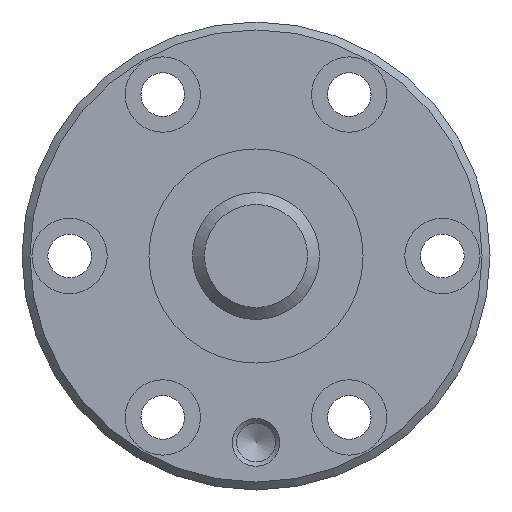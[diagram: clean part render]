
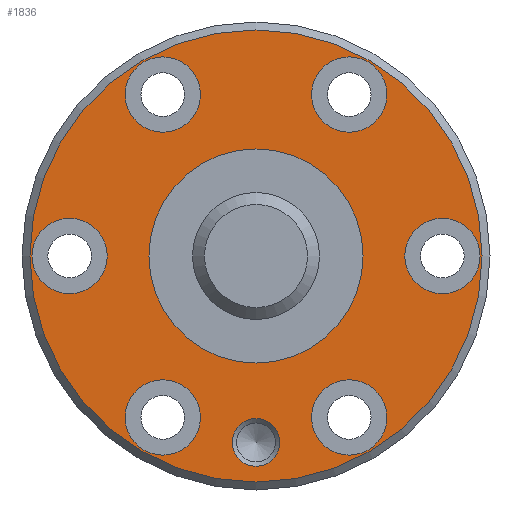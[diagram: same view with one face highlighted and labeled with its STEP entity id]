
A CAD part, left-side view. The second image highlights one B-rep face of the part: STEP entity #1836.
In plain terms, the highlighted planar face has unit normal (-1, 0, 0).
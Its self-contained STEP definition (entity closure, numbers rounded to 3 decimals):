
#420=ORIENTED_EDGE('',*,*,#890,.T.);
#421=ORIENTED_EDGE('',*,*,#891,.T.);
#422=ORIENTED_EDGE('',*,*,#892,.T.);
#423=ORIENTED_EDGE('',*,*,#893,.T.);
#424=ORIENTED_EDGE('',*,*,#894,.T.);
#425=ORIENTED_EDGE('',*,*,#895,.T.);
#426=ORIENTED_EDGE('',*,*,#896,.T.);
#427=ORIENTED_EDGE('',*,*,#897,.T.);
#428=ORIENTED_EDGE('',*,*,#898,.F.);
#890=EDGE_CURVE('',#1127,#1127,#1293,.T.);
#891=EDGE_CURVE('',#1128,#1128,#1294,.T.);
#892=EDGE_CURVE('',#1129,#1129,#1295,.T.);
#893=EDGE_CURVE('',#1130,#1130,#1296,.T.);
#894=EDGE_CURVE('',#1131,#1131,#1297,.T.);
#895=EDGE_CURVE('',#1132,#1132,#1298,.T.);
#896=EDGE_CURVE('',#1133,#1133,#1299,.T.);
#897=EDGE_CURVE('',#1134,#1134,#1300,.T.);
#898=EDGE_CURVE('',#1135,#1135,#1301,.T.);
#1127=VERTEX_POINT('',#2867);
#1128=VERTEX_POINT('',#2869);
#1129=VERTEX_POINT('',#2871);
#1130=VERTEX_POINT('',#2873);
#1131=VERTEX_POINT('',#2875);
#1132=VERTEX_POINT('',#2877);
#1133=VERTEX_POINT('',#2879);
#1134=VERTEX_POINT('',#2881);
#1135=VERTEX_POINT('',#2883);
#1293=CIRCLE('',#1994,13.5);
#1294=CIRCLE('',#1995,4.75);
#1295=CIRCLE('',#1996,4.75);
#1296=CIRCLE('',#1997,3.);
#1297=CIRCLE('',#1998,4.75);
#1298=CIRCLE('',#1999,4.75);
#1299=CIRCLE('',#2000,4.75);
#1300=CIRCLE('',#2001,4.75);
#1301=CIRCLE('',#2002,28.5);
#1387=EDGE_LOOP('',(#420));
#1388=EDGE_LOOP('',(#421));
#1389=EDGE_LOOP('',(#422));
#1390=EDGE_LOOP('',(#423));
#1391=EDGE_LOOP('',(#424));
#1392=EDGE_LOOP('',(#425));
#1393=EDGE_LOOP('',(#426));
#1394=EDGE_LOOP('',(#427));
#1395=EDGE_LOOP('',(#428));
#1579=FACE_BOUND('',#1387,.T.);
#1580=FACE_BOUND('',#1388,.T.);
#1581=FACE_BOUND('',#1389,.T.);
#1582=FACE_BOUND('',#1390,.T.);
#1583=FACE_BOUND('',#1391,.T.);
#1584=FACE_BOUND('',#1392,.T.);
#1585=FACE_BOUND('',#1393,.T.);
#1586=FACE_BOUND('',#1394,.T.);
#1587=FACE_BOUND('',#1395,.T.);
#1762=PLANE('',#1993);
#1836=ADVANCED_FACE('',(#1579,#1580,#1581,#1582,#1583,#1584,#1585,#1586,
#1587),#1762,.T.);
#1993=AXIS2_PLACEMENT_3D('',#2865,#2242,#2243);
#1994=AXIS2_PLACEMENT_3D('',#2866,#2244,#2245);
#1995=AXIS2_PLACEMENT_3D('',#2868,#2246,#2247);
#1996=AXIS2_PLACEMENT_3D('',#2870,#2248,#2249);
#1997=AXIS2_PLACEMENT_3D('',#2872,#2250,#2251);
#1998=AXIS2_PLACEMENT_3D('',#2874,#2252,#2253);
#1999=AXIS2_PLACEMENT_3D('',#2876,#2254,#2255);
#2000=AXIS2_PLACEMENT_3D('',#2878,#2256,#2257);
#2001=AXIS2_PLACEMENT_3D('',#2880,#2258,#2259);
#2002=AXIS2_PLACEMENT_3D('',#2882,#2260,#2261);
#2242=DIRECTION('',(-1.,0.,0.));
#2243=DIRECTION('',(0.,0.,1.));
#2244=DIRECTION('',(1.,0.,0.));
#2245=DIRECTION('',(0.,0.,-1.));
#2246=DIRECTION('',(1.,0.,0.));
#2247=DIRECTION('',(0.,0.,-1.));
#2248=DIRECTION('',(1.,0.,0.));
#2249=DIRECTION('',(0.,0.,-1.));
#2250=DIRECTION('',(1.,0.,0.));
#2251=DIRECTION('',(0.,0.,-1.));
#2252=DIRECTION('',(1.,0.,0.));
#2253=DIRECTION('',(0.,0.,-1.));
#2254=DIRECTION('',(1.,0.,0.));
#2255=DIRECTION('',(0.,0.,-1.));
#2256=DIRECTION('',(1.,0.,0.));
#2257=DIRECTION('',(0.,0.,-1.));
#2258=DIRECTION('',(1.,0.,0.));
#2259=DIRECTION('',(0.,0.,-1.));
#2260=DIRECTION('',(1.,0.,0.));
#2261=DIRECTION('',(0.,0.,-1.));
#2865=CARTESIAN_POINT('',(0.,28.5,0.));
#2866=CARTESIAN_POINT('',(0.,0.,0.));
#2867=CARTESIAN_POINT('',(0.,0.,-13.5));
#2868=CARTESIAN_POINT('',(0.,-20.352,-11.75));
#2869=CARTESIAN_POINT('',(0.,-20.352,-16.5));
#2870=CARTESIAN_POINT('',(0.,20.352,11.75));
#2871=CARTESIAN_POINT('',(0.,20.352,7.));
#2872=CARTESIAN_POINT('',(0.,-23.5,0.));
#2873=CARTESIAN_POINT('',(0.,-23.5,-3.));
#2874=CARTESIAN_POINT('',(0.,0.,23.5));
#2875=CARTESIAN_POINT('',(0.,0.,18.75));
#2876=CARTESIAN_POINT('',(0.,-20.352,11.75));
#2877=CARTESIAN_POINT('',(0.,-20.352,7.));
#2878=CARTESIAN_POINT('',(0.,0.,-23.5));
#2879=CARTESIAN_POINT('',(0.,0.,-28.25));
#2880=CARTESIAN_POINT('',(0.,20.352,-11.75));
#2881=CARTESIAN_POINT('',(0.,20.352,-16.5));
#2882=CARTESIAN_POINT('',(0.,0.,0.));
#2883=CARTESIAN_POINT('',(0.,0.,-28.5));
